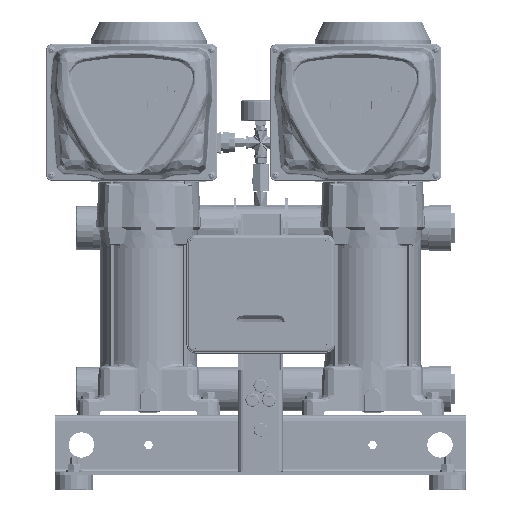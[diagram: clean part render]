
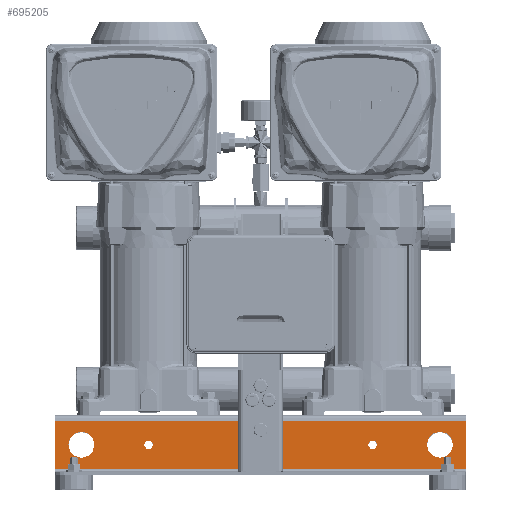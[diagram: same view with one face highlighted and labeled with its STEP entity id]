
A CAD part, top view. The second image highlights one B-rep face of the part: STEP entity #695205.
In plain terms, the highlighted planar face has unit normal (0, 0, 1) as drawn and (0, 0, -1) by its records, which use the part's own axes.
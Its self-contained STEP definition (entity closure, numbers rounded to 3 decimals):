
#688936=DIRECTION('',(1.,0.,0.));
#688937=VECTOR('',#688936,550.);
#688938=CARTESIAN_POINT('',(-275.,-8.,-150.));
#688939=LINE('',#688938,#688937);
#691166=DIRECTION('',(0.,1.,0.));
#691167=VECTOR('',#691166,64.);
#691168=CARTESIAN_POINT('',(-275.,-72.,-150.));
#691169=LINE('',#691168,#691167);
#691187=DIRECTION('',(1.,0.,0.));
#691188=VECTOR('',#691187,550.);
#691189=CARTESIAN_POINT('',(-275.,-72.,-150.));
#691190=LINE('',#691189,#691188);
#691217=DIRECTION('',(0.,1.,0.));
#691218=VECTOR('',#691217,26.);
#691219=CARTESIAN_POINT('',(-26.7,-40.,-150.));
#691220=LINE('',#691219,#691218);
#691224=DIRECTION('',(1.,0.,0.));
#691225=VECTOR('',#691224,3.6);
#691226=CARTESIAN_POINT('',(-30.3,-40.,-150.));
#691227=LINE('',#691226,#691225);
#691231=DIRECTION('',(0.,-1.,0.));
#691232=VECTOR('',#691231,26.);
#691233=CARTESIAN_POINT('',(-30.3,-14.,-150.));
#691234=LINE('',#691233,#691232);
#691238=DIRECTION('',(-1.,0.,0.));
#691239=VECTOR('',#691238,3.6);
#691240=CARTESIAN_POINT('',(-26.7,-14.,-150.));
#691241=LINE('',#691240,#691239);
#691245=DIRECTION('',(0.,1.,0.));
#691246=VECTOR('',#691245,26.);
#691247=CARTESIAN_POINT('',(30.3,-40.,-150.));
#691248=LINE('',#691247,#691246);
#691252=DIRECTION('',(1.,0.,0.));
#691253=VECTOR('',#691252,3.6);
#691254=CARTESIAN_POINT('',(26.7,-40.,-150.));
#691255=LINE('',#691254,#691253);
#691259=DIRECTION('',(0.,-1.,0.));
#691260=VECTOR('',#691259,26.);
#691261=CARTESIAN_POINT('',(26.7,-14.,-150.));
#691262=LINE('',#691261,#691260);
#691266=DIRECTION('',(-1.,0.,0.));
#691267=VECTOR('',#691266,3.6);
#691268=CARTESIAN_POINT('',(30.3,-14.,-150.));
#691269=LINE('',#691268,#691267);
#691273=CARTESIAN_POINT('',(0.,-20.,-150.));
#691274=DIRECTION('',(0.,0.,-1.));
#691275=DIRECTION('',(1.,0.,0.));
#691276=AXIS2_PLACEMENT_3D('',#691273,#691274,#691275);
#691281=CARTESIAN_POINT('',(0.,-20.,-150.));
#691282=DIRECTION('',(0.,0.,-1.));
#691283=DIRECTION('',(-1.,0.,0.));
#691284=AXIS2_PLACEMENT_3D('',#691281,#691282,#691283);
#691289=CARTESIAN_POINT('',(-240.,-40.,-150.));
#691290=DIRECTION('',(0.,0.,1.));
#691291=DIRECTION('',(-1.,0.,0.));
#691292=AXIS2_PLACEMENT_3D('',#691289,#691290,#691291);
#691297=CARTESIAN_POINT('',(-240.,-40.,-150.));
#691298=DIRECTION('',(0.,0.,1.));
#691299=DIRECTION('',(1.,0.,0.));
#691300=AXIS2_PLACEMENT_3D('',#691297,#691298,#691299);
#691305=CARTESIAN_POINT('',(240.,-40.,-150.));
#691306=DIRECTION('',(0.,0.,1.));
#691307=DIRECTION('',(-1.,0.,0.));
#691308=AXIS2_PLACEMENT_3D('',#691305,#691306,#691307);
#691313=CARTESIAN_POINT('',(240.,-40.,-150.));
#691314=DIRECTION('',(0.,0.,1.));
#691315=DIRECTION('',(1.,0.,0.));
#691316=AXIS2_PLACEMENT_3D('',#691313,#691314,#691315);
#691321=CARTESIAN_POINT('',(-150.,-40.,-150.));
#691322=DIRECTION('',(0.,0.,1.));
#691323=DIRECTION('',(1.,0.,0.));
#691324=AXIS2_PLACEMENT_3D('',#691321,#691322,#691323);
#691329=CARTESIAN_POINT('',(-150.,-40.,-150.));
#691330=DIRECTION('',(0.,0.,1.));
#691331=DIRECTION('',(-1.,0.,0.));
#691332=AXIS2_PLACEMENT_3D('',#691329,#691330,#691331);
#691337=CARTESIAN_POINT('',(150.,-40.,-150.));
#691338=DIRECTION('',(0.,0.,-1.));
#691339=DIRECTION('',(-1.,0.,0.));
#691340=AXIS2_PLACEMENT_3D('',#691337,#691338,#691339);
#691345=CARTESIAN_POINT('',(150.,-40.,-150.));
#691346=DIRECTION('',(0.,0.,-1.));
#691347=DIRECTION('',(1.,0.,0.));
#691348=AXIS2_PLACEMENT_3D('',#691345,#691346,#691347);
#691367=DIRECTION('',(0.,1.,0.));
#691368=VECTOR('',#691367,64.);
#691369=CARTESIAN_POINT('',(275.,-72.,-150.));
#691370=LINE('',#691369,#691368);
#692932=CARTESIAN_POINT('',(-275.,-72.,-150.));
#692933=CARTESIAN_POINT('',(-275.,-8.,-150.));
#692934=VERTEX_POINT('',#692932);
#692935=VERTEX_POINT('',#692933);
#692936=CARTESIAN_POINT('',(275.,-72.,-150.));
#692937=CARTESIAN_POINT('',(275.,-8.,-150.));
#692938=VERTEX_POINT('',#692936);
#692939=VERTEX_POINT('',#692937);
#693292=CARTESIAN_POINT('',(-26.7,-40.,-150.));
#693293=CARTESIAN_POINT('',(-26.7,-14.,-150.));
#693294=VERTEX_POINT('',#693292);
#693295=VERTEX_POINT('',#693293);
#693296=CARTESIAN_POINT('',(-30.3,-14.,-150.));
#693297=VERTEX_POINT('',#693296);
#693298=CARTESIAN_POINT('',(-30.3,-40.,-150.));
#693299=VERTEX_POINT('',#693298);
#693300=CARTESIAN_POINT('',(30.3,-40.,-150.));
#693301=CARTESIAN_POINT('',(30.3,-14.,-150.));
#693302=VERTEX_POINT('',#693300);
#693303=VERTEX_POINT('',#693301);
#693304=CARTESIAN_POINT('',(26.7,-14.,-150.));
#693305=VERTEX_POINT('',#693304);
#693306=CARTESIAN_POINT('',(26.7,-40.,-150.));
#693307=VERTEX_POINT('',#693306);
#693324=CARTESIAN_POINT('',(6.25,-20.,-150.));
#693325=CARTESIAN_POINT('',(-6.25,-20.,-150.));
#693326=VERTEX_POINT('',#693324);
#693327=VERTEX_POINT('',#693325);
#693348=CARTESIAN_POINT('',(-257.5,-40.,-150.));
#693349=CARTESIAN_POINT('',(-222.5,-40.,-150.));
#693350=VERTEX_POINT('',#693348);
#693351=VERTEX_POINT('',#693349);
#693352=CARTESIAN_POINT('',(222.5,-40.,-150.));
#693353=CARTESIAN_POINT('',(257.5,-40.,-150.));
#693354=VERTEX_POINT('',#693352);
#693355=VERTEX_POINT('',#693353);
#693448=CARTESIAN_POINT('',(-143.75,-40.,-150.));
#693449=CARTESIAN_POINT('',(-156.25,-40.,-150.));
#693450=VERTEX_POINT('',#693448);
#693451=VERTEX_POINT('',#693449);
#693460=CARTESIAN_POINT('',(143.75,-40.,-150.));
#693462=VERTEX_POINT('',#693460);
#693468=CARTESIAN_POINT('',(156.25,-40.,-150.));
#693470=VERTEX_POINT('',#693468);
#695143=CARTESIAN_POINT('',(-275.,-76.,-150.));
#695144=DIRECTION('',(0.,0.,-1.));
#695145=DIRECTION('',(0.,1.,0.));
#695146=AXIS2_PLACEMENT_3D('',#695143,#695144,#695145);
#695147=PLANE('',#695146);
#695148=ORIENTED_EDGE('',*,*,#695096,.F.);
#695149=ORIENTED_EDGE('',*,*,#695133,.T.);
#695151=ORIENTED_EDGE('',*,*,#695150,.T.);
#695152=ORIENTED_EDGE('',*,*,#694204,.F.);
#695153=EDGE_LOOP('',(#695148,#695149,#695151,#695152));
#695154=FACE_OUTER_BOUND('',#695153,.F.);
#695156=ORIENTED_EDGE('',*,*,#695155,.F.);
#695158=ORIENTED_EDGE('',*,*,#695157,.F.);
#695160=ORIENTED_EDGE('',*,*,#695159,.F.);
#695162=ORIENTED_EDGE('',*,*,#695161,.F.);
#695163=EDGE_LOOP('',(#695156,#695158,#695160,#695162));
#695164=FACE_BOUND('',#695163,.F.);
#695166=ORIENTED_EDGE('',*,*,#695165,.F.);
#695168=ORIENTED_EDGE('',*,*,#695167,.F.);
#695170=ORIENTED_EDGE('',*,*,#695169,.F.);
#695172=ORIENTED_EDGE('',*,*,#695171,.F.);
#695173=EDGE_LOOP('',(#695166,#695168,#695170,#695172));
#695174=FACE_BOUND('',#695173,.F.);
#695176=ORIENTED_EDGE('',*,*,#695175,.T.);
#695178=ORIENTED_EDGE('',*,*,#695177,.T.);
#695179=EDGE_LOOP('',(#695176,#695178));
#695180=FACE_BOUND('',#695179,.F.);
#695182=ORIENTED_EDGE('',*,*,#695181,.F.);
#695184=ORIENTED_EDGE('',*,*,#695183,.F.);
#695185=EDGE_LOOP('',(#695182,#695184));
#695186=FACE_BOUND('',#695185,.F.);
#695188=ORIENTED_EDGE('',*,*,#695187,.F.);
#695190=ORIENTED_EDGE('',*,*,#695189,.F.);
#695191=EDGE_LOOP('',(#695188,#695190));
#695192=FACE_BOUND('',#695191,.F.);
#695194=ORIENTED_EDGE('',*,*,#695193,.F.);
#695196=ORIENTED_EDGE('',*,*,#695195,.F.);
#695197=EDGE_LOOP('',(#695194,#695196));
#695198=FACE_BOUND('',#695197,.F.);
#695200=ORIENTED_EDGE('',*,*,#695199,.T.);
#695202=ORIENTED_EDGE('',*,*,#695201,.T.);
#695203=EDGE_LOOP('',(#695200,#695202));
#695204=FACE_BOUND('',#695203,.F.);
#691277=CIRCLE('',#691276,6.25);
#691285=CIRCLE('',#691284,6.25);
#691293=CIRCLE('',#691292,17.5);
#691301=CIRCLE('',#691300,17.5);
#691309=CIRCLE('',#691308,17.5);
#691317=CIRCLE('',#691316,17.5);
#691325=CIRCLE('',#691324,6.25);
#691333=CIRCLE('',#691332,6.25);
#691341=CIRCLE('',#691340,6.25);
#691349=CIRCLE('',#691348,6.25);
#694204=EDGE_CURVE('',#692935,#692939,#688939,.T.);
#695096=EDGE_CURVE('',#692934,#692935,#691169,.T.);
#695133=EDGE_CURVE('',#692934,#692938,#691190,.T.);
#695150=EDGE_CURVE('',#692938,#692939,#691370,.T.);
#695155=EDGE_CURVE('',#693294,#693295,#691220,.T.);
#695157=EDGE_CURVE('',#693299,#693294,#691227,.T.);
#695159=EDGE_CURVE('',#693297,#693299,#691234,.T.);
#695161=EDGE_CURVE('',#693295,#693297,#691241,.T.);
#695165=EDGE_CURVE('',#693302,#693303,#691248,.T.);
#695167=EDGE_CURVE('',#693307,#693302,#691255,.T.);
#695169=EDGE_CURVE('',#693305,#693307,#691262,.T.);
#695171=EDGE_CURVE('',#693303,#693305,#691269,.T.);
#695175=EDGE_CURVE('',#693326,#693327,#691277,.T.);
#695177=EDGE_CURVE('',#693327,#693326,#691285,.T.);
#695181=EDGE_CURVE('',#693350,#693351,#691293,.T.);
#695183=EDGE_CURVE('',#693351,#693350,#691301,.T.);
#695187=EDGE_CURVE('',#693354,#693355,#691309,.T.);
#695189=EDGE_CURVE('',#693355,#693354,#691317,.T.);
#695193=EDGE_CURVE('',#693450,#693451,#691325,.T.);
#695195=EDGE_CURVE('',#693451,#693450,#691333,.T.);
#695199=EDGE_CURVE('',#693462,#693470,#691341,.T.);
#695201=EDGE_CURVE('',#693470,#693462,#691349,.T.);
#695205=ADVANCED_FACE('',(#695154,#695164,#695174,#695180,#695186,#695192,
#695198,#695204),#695147,.T.);
